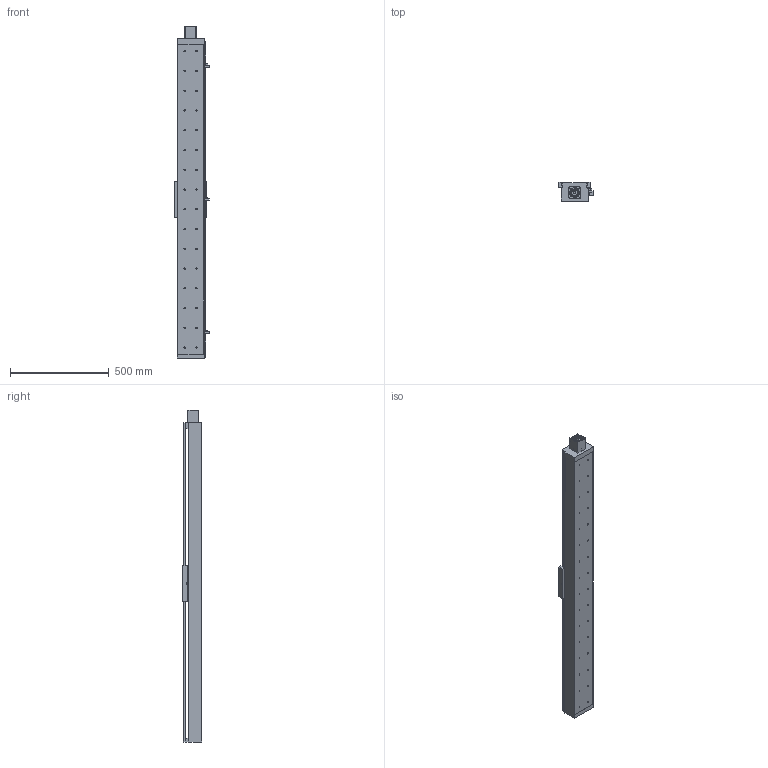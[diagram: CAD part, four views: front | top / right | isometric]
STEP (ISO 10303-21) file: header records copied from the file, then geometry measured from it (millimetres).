
FILE_DESCRIPTION((''),'2;1');
FILE_NAME('E:\libraries\UIA actuator library 2009\standard actuator\UIA136 ball screw 20\UIA136R15NDC stp file 27Apr16\UIA136R15NDC-1350-R20_ _-M60-P13-C10-S.stp','2016-04-27T15:50:53',('h029'),(''),'Autodesk Inventor 11','Autodesk Inventor 11','');
FILE_SCHEMA(('AUTOMOTIVE_DESIGN { 1 0 10303 214 1 1 1 1 }'));
Length unit declared in the file: millimetre
Products named in the file (10): UIA136R15NDC-1350; UIA136R15NDC-body; motor mount F60; SOH-32C; SOH-32C-3; SOH-32C-1; SOH-32C-2; Carriage; Sensor Switch; sensor rail
Assembly tree (9 placements, depth 3):
  UIA136R15NDC-1350
    UIA136R15NDC-body
    motor mount F60
    SOH-32C
      SOH-32C-3
      SOH-32C-1
      SOH-32C-2
    Carriage
    Sensor Switch
    sensor rail
Bounding box: 174.5 x 98 x 1680 mm (x, y, z)
Volume: 5988009.5 mm3; surface area: 1710495.7 mm2
Topology: 8 solids, 8 shells, 543 faces, 1401 edges, 921 vertices
Faces by surface type: plane 313, bspline 186, cylinder 40, cone 4
Full cylindrical faces by diameter (mm): 2.459 x2, 3.242 x2, 4.5 x2, 5.5 x3, 7.5 x2, 10 x2, 12 x1, 14 x1, 32 x3, 37 x1, 41.9 x1, 42.1 x1, 43.5 x1
Entity records: 17851 total; most frequent: CARTESIAN_POINT 5546, ORIENTED_EDGE 2346, DIRECTION 2282, EDGE_CURVE 1173, EDGE_LOOP 869, VERTEX_POINT 856, VECTOR 798, LINE 798
